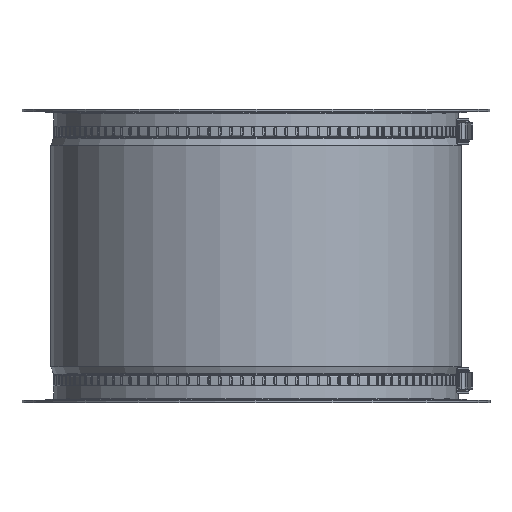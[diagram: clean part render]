
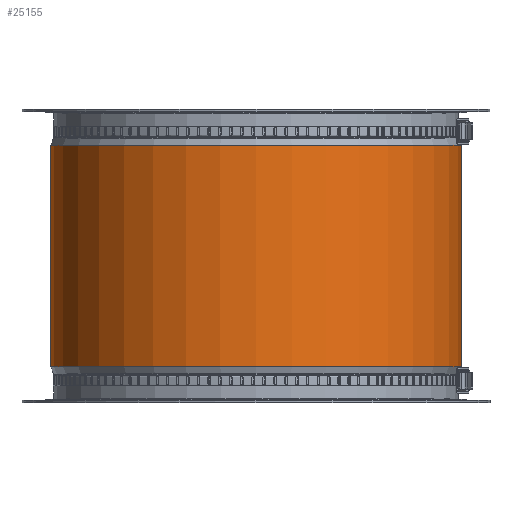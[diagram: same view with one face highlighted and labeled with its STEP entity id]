
A CAD part, front view. The second image highlights one B-rep face of the part: STEP entity #25155.
In plain terms, the highlighted cylindrical face has radius 182 mm (diameter 364 mm), a full revolution.
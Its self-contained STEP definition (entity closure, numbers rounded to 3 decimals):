
#255=FACE_BOUND('',#3850,.T.);
#2333=FACE_OUTER_BOUND('',#3849,.T.);
#3849=EDGE_LOOP('',(#22535));
#3850=EDGE_LOOP('',(#22536));
#9651=CIRCLE('',#27898,182.);
#9652=CIRCLE('',#27899,182.);
#12017=VERTEX_POINT('',#44807);
#12018=VERTEX_POINT('',#44809);
#15568=EDGE_CURVE('',#12017,#12017,#9651,.T.);
#15569=EDGE_CURVE('',#12018,#12018,#9652,.T.);
#22535=ORIENTED_EDGE('',*,*,#15568,.F.);
#22536=ORIENTED_EDGE('',*,*,#15569,.F.);
#23859=CYLINDRICAL_SURFACE('',#27897,182.);
#25155=ADVANCED_FACE('',(#2333,#255),#23859,.T.);
#27897=AXIS2_PLACEMENT_3D('',#44806,#34920,#34921);
#27898=AXIS2_PLACEMENT_3D('',#44808,#34922,#34923);
#27899=AXIS2_PLACEMENT_3D('',#44810,#34924,#34925);
#34920=DIRECTION('center_axis',(0.,0.,1.));
#34921=DIRECTION('ref_axis',(-1.,0.,0.));
#34922=DIRECTION('center_axis',(0.,0.,-1.));
#34923=DIRECTION('ref_axis',(-1.,0.,0.));
#34924=DIRECTION('center_axis',(0.,0.,1.));
#34925=DIRECTION('ref_axis',(-1.,0.,0.));
#44806=CARTESIAN_POINT('Origin',(0.,0.,0.));
#44807=CARTESIAN_POINT('',(182.,0.,-98.));
#44808=CARTESIAN_POINT('Origin',(0.,0.,-98.));
#44809=CARTESIAN_POINT('',(182.,0.,98.));
#44810=CARTESIAN_POINT('Origin',(0.,0.,98.));
